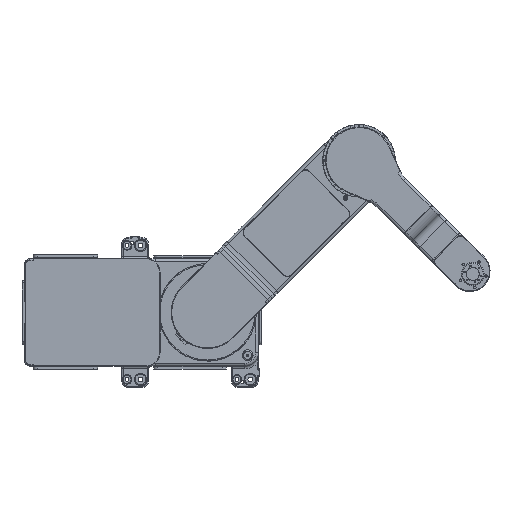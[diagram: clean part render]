
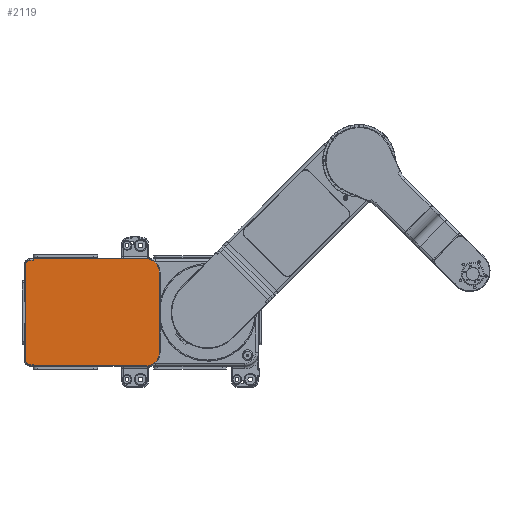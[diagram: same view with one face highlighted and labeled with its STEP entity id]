
A CAD part, top view. The second image highlights one B-rep face of the part: STEP entity #2119.
In plain terms, the highlighted planar face has unit normal (0, 0, 1).
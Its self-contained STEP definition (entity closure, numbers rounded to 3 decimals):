
#1192=FACE_OUTER_BOUND('',#6683,.T.);
#2119=ADVANCED_FACE('',(#1192),#3178,.T.);
#3178=PLANE('',#18839);
#3574=LINE('',#26493,#4800);
#3699=LINE('',#27158,#4925);
#3782=LINE('',#27536,#5008);
#3828=LINE('',#27686,#5054);
#3829=LINE('',#27689,#5055);
#3830=LINE('',#27691,#5056);
#3831=LINE('',#27694,#5057);
#3832=LINE('',#27697,#5058);
#3833=LINE('',#27699,#5059);
#3834=LINE('',#27701,#5060);
#3835=LINE('',#27705,#5061);
#3836=LINE('',#27706,#5062);
#4800=VECTOR('',#20751,1.);
#4925=VECTOR('',#21238,1.);
#5008=VECTOR('',#21549,1.);
#5054=VECTOR('',#21709,1.);
#5055=VECTOR('',#21710,1.);
#5056=VECTOR('',#21711,1.);
#5057=VECTOR('',#21714,1.);
#5058=VECTOR('',#21717,1.);
#5059=VECTOR('',#21718,1.);
#5060=VECTOR('',#21719,1.);
#5061=VECTOR('',#21722,1.);
#5062=VECTOR('',#21723,1.);
#6683=EDGE_LOOP('',(#8675,#8676,#8677,#8678,#8679,#8680,#8681,#8682,#8683,
#8684,#8685,#8686,#8687,#8688,#8689,#8690));
#8675=ORIENTED_EDGE('',*,*,#15251,.T.);
#8676=ORIENTED_EDGE('',*,*,#15252,.F.);
#8677=ORIENTED_EDGE('',*,*,#15253,.F.);
#8678=ORIENTED_EDGE('',*,*,#15021,.F.);
#8679=ORIENTED_EDGE('',*,*,#15254,.F.);
#8680=ORIENTED_EDGE('',*,*,#15255,.F.);
#8681=ORIENTED_EDGE('',*,*,#15256,.F.);
#8682=ORIENTED_EDGE('',*,*,#15176,.F.);
#8683=ORIENTED_EDGE('',*,*,#15257,.F.);
#8684=ORIENTED_EDGE('',*,*,#15258,.F.);
#8685=ORIENTED_EDGE('',*,*,#15259,.T.);
#8686=ORIENTED_EDGE('',*,*,#15260,.T.);
#8687=ORIENTED_EDGE('',*,*,#15261,.T.);
#8688=ORIENTED_EDGE('',*,*,#14766,.F.);
#8689=ORIENTED_EDGE('',*,*,#15262,.T.);
#8690=ORIENTED_EDGE('',*,*,#15263,.T.);
#13036=VERTEX_POINT('',#26471);
#13047=VERTEX_POINT('',#26492);
#13263=VERTEX_POINT('',#27157);
#13264=VERTEX_POINT('',#27159);
#13355=VERTEX_POINT('',#27447);
#13370=VERTEX_POINT('',#27535);
#13418=VERTEX_POINT('',#27687);
#13419=VERTEX_POINT('',#27688);
#13420=VERTEX_POINT('',#27690);
#13421=VERTEX_POINT('',#27693);
#13422=VERTEX_POINT('',#27695);
#13423=VERTEX_POINT('',#27698);
#13424=VERTEX_POINT('',#27700);
#13425=VERTEX_POINT('',#27702);
#13426=VERTEX_POINT('',#27704);
#13427=VERTEX_POINT('',#27707);
#14766=EDGE_CURVE('',#13047,#13036,#3574,.T.);
#15021=EDGE_CURVE('',#13263,#13264,#3699,.T.);
#15176=EDGE_CURVE('',#13370,#13355,#3782,.T.);
#15251=EDGE_CURVE('',#13418,#13419,#3828,.T.);
#15252=EDGE_CURVE('',#13420,#13419,#3829,.T.);
#15253=EDGE_CURVE('',#13264,#13420,#3830,.T.);
#15254=EDGE_CURVE('',#13421,#13263,#17543,.T.);
#15255=EDGE_CURVE('',#13422,#13421,#3831,.T.);
#15256=EDGE_CURVE('',#13355,#13422,#17544,.T.);
#15257=EDGE_CURVE('',#13423,#13370,#3832,.T.);
#15258=EDGE_CURVE('',#13424,#13423,#3833,.T.);
#15259=EDGE_CURVE('',#13424,#13425,#3834,.T.);
#15260=EDGE_CURVE('',#13425,#13426,#17545,.T.);
#15261=EDGE_CURVE('',#13426,#13036,#3835,.T.);
#15262=EDGE_CURVE('',#13047,#13427,#3836,.T.);
#15263=EDGE_CURVE('',#13427,#13418,#17546,.T.);
#17543=CIRCLE('',#18835,50.);
#17544=CIRCLE('',#18836,50.);
#17545=CIRCLE('',#18837,15.);
#17546=CIRCLE('',#18838,15.);
#18835=AXIS2_PLACEMENT_3D('',#27692,#21712,#21713);
#18836=AXIS2_PLACEMENT_3D('',#27696,#21715,#21716);
#18837=AXIS2_PLACEMENT_3D('',#27703,#21720,#21721);
#18838=AXIS2_PLACEMENT_3D('',#27708,#21724,#21725);
#18839=AXIS2_PLACEMENT_3D('',#27709,#21726,#21727);
#20751=DIRECTION('',(0.,1.,0.));
#21238=DIRECTION('',(-1.,0.,0.));
#21549=DIRECTION('',(1.,0.,0.));
#21709=DIRECTION('',(1.,0.,0.));
#21710=DIRECTION('',(0.,1.,0.));
#21711=DIRECTION('',(-0.707,0.707,0.));
#21712=DIRECTION('',(0.,0.,-1.));
#21713=DIRECTION('',(0.,-1.,0.));
#21714=DIRECTION('',(0.,-1.,0.));
#21715=DIRECTION('',(0.,0.,-1.));
#21716=DIRECTION('',(1.,0.,0.));
#21717=DIRECTION('',(0.707,0.707,0.));
#21718=DIRECTION('',(0.,1.,0.));
#21719=DIRECTION('',(-1.,0.,0.));
#21720=DIRECTION('',(0.,0.,1.));
#21721=DIRECTION('',(0.,1.,0.));
#21722=DIRECTION('',(0.,-1.,0.));
#21723=DIRECTION('',(0.,-1.,0.));
#21724=DIRECTION('',(0.,0.,1.));
#21725=DIRECTION('',(-1.,0.,0.));
#21726=DIRECTION('',(0.,0.,1.));
#21727=DIRECTION('',(-1.,0.,0.));
#26471=CARTESIAN_POINT('',(-678.,40.,170.));
#26492=CARTESIAN_POINT('',(-678.,-40.,170.));
#26493=CARTESIAN_POINT('',(-678.,-40.,170.));
#27157=CARTESIAN_POINT('',(-230.,-200.,170.));
#27158=CARTESIAN_POINT('',(-230.,-200.,170.));
#27159=CARTESIAN_POINT('',(-648.,-200.,170.));
#27447=CARTESIAN_POINT('',(-230.,200.,170.));
#27535=CARTESIAN_POINT('',(-648.,200.,170.));
#27536=CARTESIAN_POINT('',(-648.,200.,170.));
#27686=CARTESIAN_POINT('',(-663.,-195.,170.));
#27687=CARTESIAN_POINT('',(-663.,-195.,170.));
#27688=CARTESIAN_POINT('',(-650.,-195.,170.));
#27689=CARTESIAN_POINT('',(-650.,-198.,170.));
#27690=CARTESIAN_POINT('',(-650.,-198.,170.));
#27691=CARTESIAN_POINT('',(-648.,-200.,170.));
#27692=CARTESIAN_POINT('',(-230.,-150.,170.));
#27693=CARTESIAN_POINT('',(-180.,-150.,170.));
#27694=CARTESIAN_POINT('',(-180.,150.,170.));
#27695=CARTESIAN_POINT('',(-180.,150.,170.));
#27696=CARTESIAN_POINT('',(-230.,150.,170.));
#27697=CARTESIAN_POINT('',(-650.,198.,170.));
#27698=CARTESIAN_POINT('',(-650.,198.,170.));
#27699=CARTESIAN_POINT('',(-650.,-198.,170.));
#27700=CARTESIAN_POINT('',(-650.,195.,170.));
#27701=CARTESIAN_POINT('',(-650.,195.,170.));
#27702=CARTESIAN_POINT('',(-663.,195.,170.));
#27703=CARTESIAN_POINT('',(-663.,180.,170.));
#27704=CARTESIAN_POINT('',(-678.,180.,170.));
#27705=CARTESIAN_POINT('',(-678.,180.,170.));
#27706=CARTESIAN_POINT('',(-678.,-40.,170.));
#27707=CARTESIAN_POINT('',(-678.,-180.,170.));
#27708=CARTESIAN_POINT('',(-663.,-180.,170.));
#27709=CARTESIAN_POINT('',(0.,0.,170.));
